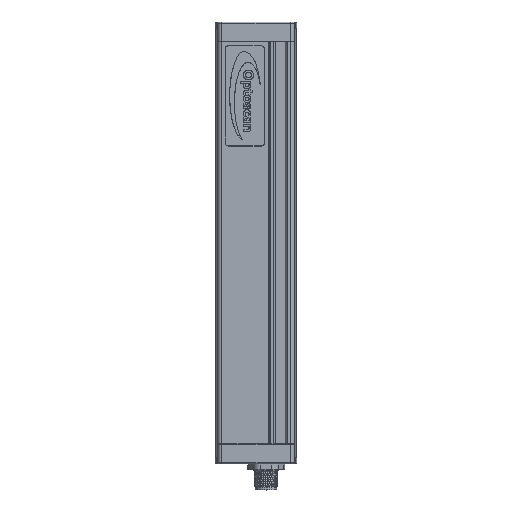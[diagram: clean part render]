
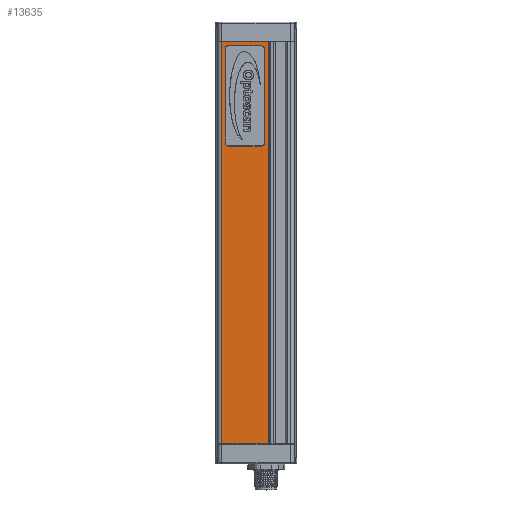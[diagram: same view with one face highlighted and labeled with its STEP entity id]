
A CAD part, top view. The second image highlights one B-rep face of the part: STEP entity #13635.
In plain terms, the highlighted planar face has unit normal (0, 0, 1).
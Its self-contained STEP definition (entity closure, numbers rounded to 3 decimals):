
#165=FACE_BOUND('',#2115,.T.);
#475=CIRCLE('',#14507,1.49);
#476=CIRCLE('',#14508,1.49);
#477=CIRCLE('',#14509,1.49);
#478=CIRCLE('',#14510,1.49);
#992=PLANE('',#14506);
#1357=FACE_OUTER_BOUND('',#2114,.T.);
#2114=EDGE_LOOP('',(#9142,#9143,#9144,#9145));
#2115=EDGE_LOOP('',(#9146,#9147,#9148,#9149,#9150,#9151,#9152,#9153));
#3341=LINE('',#20186,#4403);
#3353=LINE('',#20220,#4415);
#3367=LINE('',#20257,#4429);
#3368=LINE('',#20258,#4430);
#3369=LINE('',#20263,#4431);
#3370=LINE('',#20267,#4432);
#3371=LINE('',#20271,#4433);
#3372=LINE('',#20274,#4434);
#4403=VECTOR('',#16079,10.);
#4415=VECTOR('',#16103,10.);
#4429=VECTOR('',#16131,10.);
#4430=VECTOR('',#16132,10.);
#4431=VECTOR('',#16135,10.);
#4432=VECTOR('',#16138,10.);
#4433=VECTOR('',#16141,10.);
#4434=VECTOR('',#16144,10.);
#5562=VERTEX_POINT('',#20183);
#5563=VERTEX_POINT('',#20185);
#5578=VERTEX_POINT('',#20217);
#5579=VERTEX_POINT('',#20219);
#5596=VERTEX_POINT('',#20259);
#5597=VERTEX_POINT('',#20260);
#5598=VERTEX_POINT('',#20262);
#5599=VERTEX_POINT('',#20264);
#5600=VERTEX_POINT('',#20266);
#5601=VERTEX_POINT('',#20268);
#5602=VERTEX_POINT('',#20270);
#5603=VERTEX_POINT('',#20272);
#6916=EDGE_CURVE('',#5562,#5563,#3341,.T.);
#6932=EDGE_CURVE('',#5579,#5578,#3353,.T.);
#6950=EDGE_CURVE('',#5578,#5563,#3367,.T.);
#6951=EDGE_CURVE('',#5579,#5562,#3368,.T.);
#6952=EDGE_CURVE('',#5596,#5597,#475,.T.);
#6953=EDGE_CURVE('',#5598,#5596,#3369,.T.);
#6954=EDGE_CURVE('',#5599,#5598,#476,.T.);
#6955=EDGE_CURVE('',#5600,#5599,#3370,.T.);
#6956=EDGE_CURVE('',#5601,#5600,#477,.T.);
#6957=EDGE_CURVE('',#5602,#5601,#3371,.T.);
#6958=EDGE_CURVE('',#5603,#5602,#478,.T.);
#6959=EDGE_CURVE('',#5597,#5603,#3372,.T.);
#9142=ORIENTED_EDGE('',*,*,#6932,.T.);
#9143=ORIENTED_EDGE('',*,*,#6950,.T.);
#9144=ORIENTED_EDGE('',*,*,#6916,.F.);
#9145=ORIENTED_EDGE('',*,*,#6951,.F.);
#9146=ORIENTED_EDGE('',*,*,#6952,.F.);
#9147=ORIENTED_EDGE('',*,*,#6953,.F.);
#9148=ORIENTED_EDGE('',*,*,#6954,.F.);
#9149=ORIENTED_EDGE('',*,*,#6955,.F.);
#9150=ORIENTED_EDGE('',*,*,#6956,.F.);
#9151=ORIENTED_EDGE('',*,*,#6957,.F.);
#9152=ORIENTED_EDGE('',*,*,#6958,.F.);
#9153=ORIENTED_EDGE('',*,*,#6959,.F.);
#13635=ADVANCED_FACE('',(#1357,#165),#992,.T.);
#14506=AXIS2_PLACEMENT_3D('',#20256,#16129,#16130);
#14507=AXIS2_PLACEMENT_3D('',#20261,#16133,#16134);
#14508=AXIS2_PLACEMENT_3D('',#20265,#16136,#16137);
#14509=AXIS2_PLACEMENT_3D('',#20269,#16139,#16140);
#14510=AXIS2_PLACEMENT_3D('',#20273,#16142,#16143);
#16079=DIRECTION('',(1.,0.,0.));
#16103=DIRECTION('',(1.,0.,0.));
#16129=DIRECTION('center_axis',(0.,0.,
1.));
#16130=DIRECTION('ref_axis',(1.,0.,0.));
#16131=DIRECTION('',(0.,1.,0.));
#16132=DIRECTION('',(0.,1.,0.));
#16133=DIRECTION('center_axis',(0.,0.,
1.));
#16134=DIRECTION('ref_axis',(0.707,0.707,0.));
#16135=DIRECTION('',(0.,1.,0.));
#16136=DIRECTION('center_axis',(0.,0.,
1.));
#16137=DIRECTION('ref_axis',(0.707,-0.707,0.));
#16138=DIRECTION('',(1.,0.,0.));
#16139=DIRECTION('center_axis',(0.,0.,
1.));
#16140=DIRECTION('ref_axis',(-0.707,-0.707,0.));
#16141=DIRECTION('',(0.,-1.,0.));
#16142=DIRECTION('center_axis',(0.,0.,
1.));
#16143=DIRECTION('ref_axis',(-0.707,0.707,0.));
#16144=DIRECTION('',(-1.,0.,0.));
#20183=CARTESIAN_POINT('',(-12.565,200.,1.277));
#20185=CARTESIAN_POINT('',(10.736,200.,1.277));
#20186=CARTESIAN_POINT('',(-12.565,200.,1.277));
#20217=CARTESIAN_POINT('',(10.736,0.,1.277));
#20219=CARTESIAN_POINT('',(-12.565,0.,1.277));
#20220=CARTESIAN_POINT('',(-12.565,0.,1.277));
#20256=CARTESIAN_POINT('Origin',(-12.565,0.,
1.277));
#20257=CARTESIAN_POINT('',(10.736,0.,1.277));
#20258=CARTESIAN_POINT('',(-12.565,0.,1.277));
#20259=CARTESIAN_POINT('',(8.576,196.5,1.277));
#20260=CARTESIAN_POINT('',(7.086,197.99,1.277));
#20261=CARTESIAN_POINT('Origin',(7.086,196.5,1.277));
#20262=CARTESIAN_POINT('',(8.576,149.7,1.277));
#20263=CARTESIAN_POINT('',(8.576,161.4,1.277));
#20264=CARTESIAN_POINT('',(7.086,148.21,1.277));
#20265=CARTESIAN_POINT('Origin',(7.086,149.7,1.277));
#20266=CARTESIAN_POINT('',(-9.314,148.21,1.277));
#20267=CARTESIAN_POINT('',(-5.214,148.21,1.277));
#20268=CARTESIAN_POINT('',(-10.804,149.7,1.277));
#20269=CARTESIAN_POINT('Origin',(-9.314,149.7,1.277));
#20270=CARTESIAN_POINT('',(-10.804,196.5,1.277));
#20271=CARTESIAN_POINT('',(-10.804,184.8,1.277));
#20272=CARTESIAN_POINT('',(-9.314,197.99,1.277));
#20273=CARTESIAN_POINT('Origin',(-9.314,196.5,1.277));
#20274=CARTESIAN_POINT('',(2.986,197.99,1.277));
